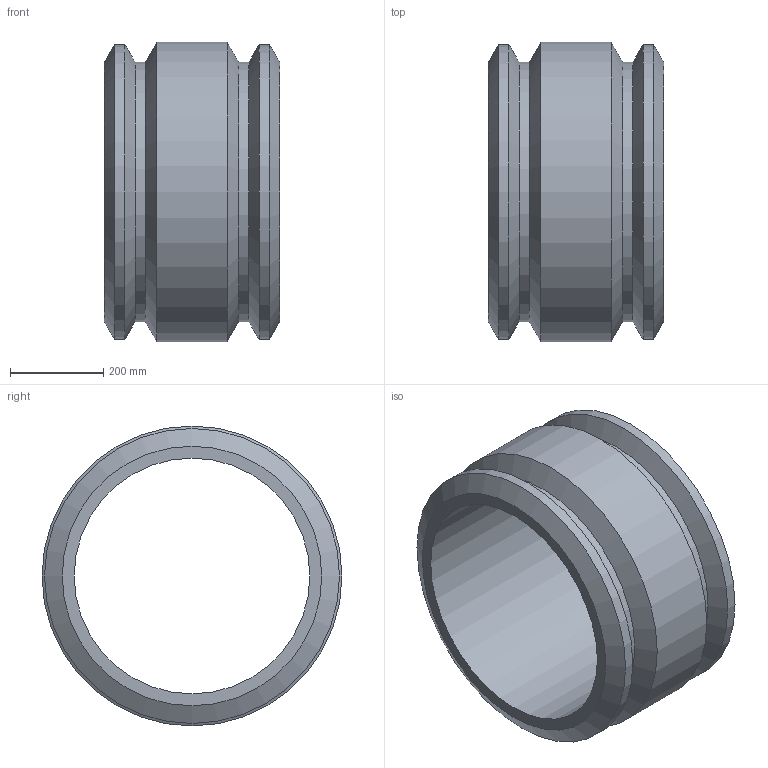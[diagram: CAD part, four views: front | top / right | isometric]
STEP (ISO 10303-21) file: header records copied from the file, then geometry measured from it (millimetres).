
FILE_DESCRIPTION(/* description */ ('PLASSON COUPLER 20''''DIPS'),/* implementation_level */ '2;1');
FILE_NAME(/* name */ 'C:\Dropbox\KIMPROJECTS-Inventor 2019\99-16-3568-Processing Inch\ASTM ElectroFusion 2021\5901D\5901D003200.ipt.stp',/* time_stamp */ '2021-08-30T09:49:01+03:00',/* author */ ('KIM'),/* organization */ (''),/* preprocessor_version */ 'ST-DEVELOPER v17.2',/* originating_system */ 'Autodesk Inventor 2019',/* authorisation */ '');
FILE_SCHEMA (('AUTOMOTIVE_DESIGN { 1 0 10303 214 3 1 1 }'));
Length unit declared in the file: inch
Products named in the file (1): 5901D003200
Bounding box: 375.92 x 643.38 x 643.38 mm (x, y, z)
Volume: 36486397.8 mm3; surface area: 1667170.7 mm2
Topology: 1 solids, 1 shells, 14 faces, 40 edges, 28 vertices
Faces by surface type: cone 6, cylinder 6, plane 2
Full cylindrical faces by diameter (mm): 505.7 x1, 557.012 x2, 632.968 x2, 643.382 x1
Entity records: 531 total; most frequent: DIRECTION 98, CARTESIAN_POINT 83, ORIENTED_EDGE 80, AXIS2_PLACEMENT_3D 43, EDGE_CURVE 40, CIRCLE 28, VERTEX_POINT 28, EDGE_LOOP 16
